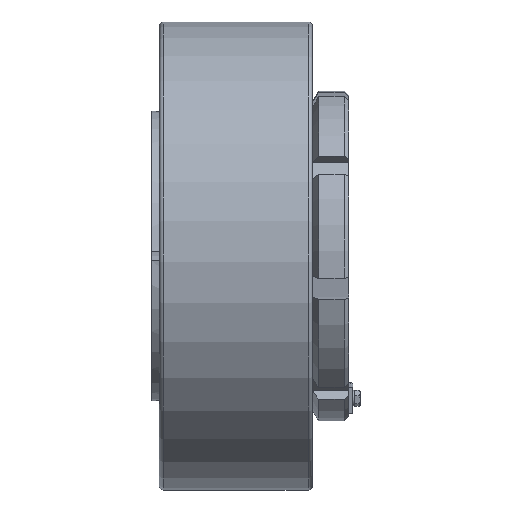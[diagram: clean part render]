
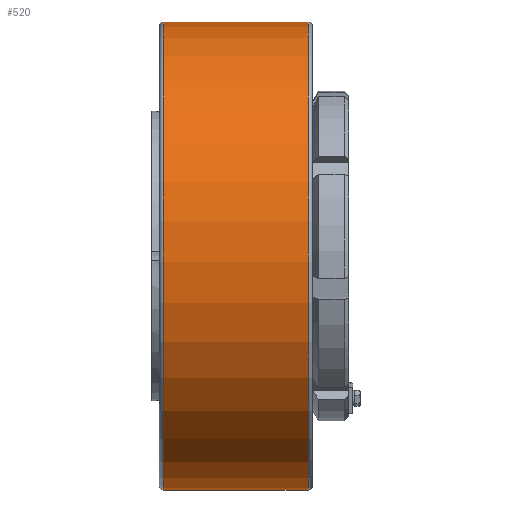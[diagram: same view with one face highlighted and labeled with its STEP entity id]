
A CAD part, front view. The second image highlights one B-rep face of the part: STEP entity #520.
In plain terms, the highlighted cylindrical face has radius 220 mm (diameter 440 mm), a full revolution.
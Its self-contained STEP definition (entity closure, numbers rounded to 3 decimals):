
#520 = ADVANCED_FACE( '', ( #1169, #1170 ), #1171, .T. );
#1169 = FACE_OUTER_BOUND( '', #1942, .T. );
#1170 = FACE_OUTER_BOUND( '', #1943, .T. );
#1171 = CYLINDRICAL_SURFACE( '', #1944, 220. );
#1942 = EDGE_LOOP( '', ( #4076 ) );
#1943 = EDGE_LOOP( '', ( #4077 ) );
#1944 = AXIS2_PLACEMENT_3D( '', #4078, #4079, #4080 );
#4076 = ORIENTED_EDGE( '', *, *, #5532, .T. );
#4077 = ORIENTED_EDGE( '', *, *, #5546, .F. );
#4078 = CARTESIAN_POINT( '', ( 0., 0., 0. ) );
#4079 = DIRECTION( '', ( -1., 0., 0. ) );
#4080 = DIRECTION( '', ( 0., 0., -1. ) );
#5532 = EDGE_CURVE( '', #6788, #6788, #6789, .T. );
#5546 = EDGE_CURVE( '', #6816, #6816, #6817, .T. );
#6788 = VERTEX_POINT( '', #8837 );
#6789 = CIRCLE( '', #8838, 220. );
#6816 = VERTEX_POINT( '', #8865 );
#6817 = CIRCLE( '', #8866, 220. );
#8837 = CARTESIAN_POINT( '', ( -181., 0., -220. ) );
#8838 = AXIS2_PLACEMENT_3D( '', #10392, #10393, #10394 );
#8865 = CARTESIAN_POINT( '', ( -45., 0., -220. ) );
#8866 = AXIS2_PLACEMENT_3D( '', #10434, #10435, #10436 );
#10392 = CARTESIAN_POINT( '', ( -181., 0., 0. ) );
#10393 = DIRECTION( '', ( 1., 0., 0. ) );
#10394 = DIRECTION( '', ( 0., 0., -1. ) );
#10434 = CARTESIAN_POINT( '', ( -45., 0., 0. ) );
#10435 = DIRECTION( '', ( 1., 0., 0. ) );
#10436 = DIRECTION( '', ( 0., 0., -1. ) );
